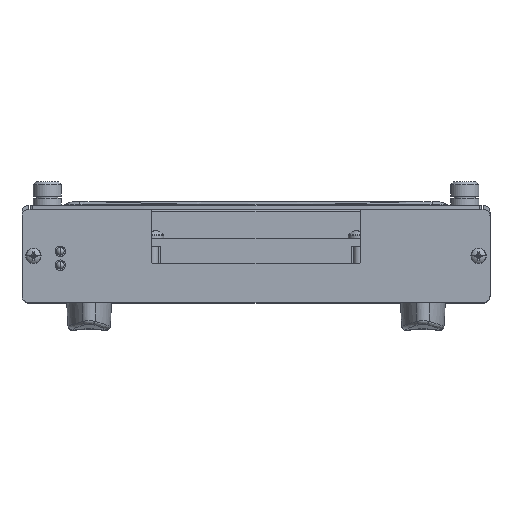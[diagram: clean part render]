
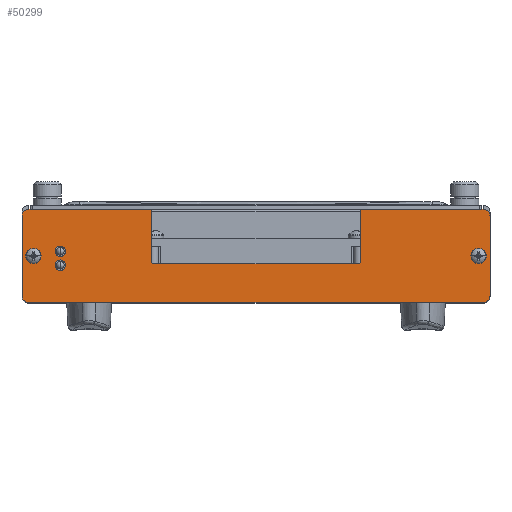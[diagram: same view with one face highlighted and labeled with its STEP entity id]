
A CAD part, top view. The second image highlights one B-rep face of the part: STEP entity #50299.
In plain terms, the highlighted planar face has unit normal (0, 0, 1).
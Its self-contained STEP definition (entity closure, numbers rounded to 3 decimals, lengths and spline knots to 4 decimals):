
#3085=CARTESIAN_POINT('',(1.53,1.31,7.58));
#3086=DIRECTION('',(0.,0.,1.));
#3087=DIRECTION('',(0.,1.,0.));
#3088=AXIS2_PLACEMENT_3D('',#3085,#3086,#3087);
#3181=CARTESIAN_POINT('',(-1.53,1.31,7.58));
#3182=DIRECTION('',(0.,0.,1.));
#3183=DIRECTION('',(1.,0.,0.));
#3184=AXIS2_PLACEMENT_3D('',#3181,#3182,#3183);
#3190=CARTESIAN_POINT('',(-1.47,0.585,7.58));
#3191=DIRECTION('',(0.,0.,-1.));
#3192=DIRECTION('',(0.,-1.,0.));
#3193=AXIS2_PLACEMENT_3D('',#3190,#3191,#3192);
#3213=CARTESIAN_POINT('',(1.47,0.585,7.58));
#3214=DIRECTION('',(0.,0.,-1.));
#3215=DIRECTION('',(1.,0.,0.));
#3216=AXIS2_PLACEMENT_3D('',#3213,#3214,#3215);
#3222=DIRECTION('',(-1.,0.,0.));
#3223=VECTOR('',#3222,0.0361);
#3224=CARTESIAN_POINT('',(3.265,1.34,7.58));
#3225=LINE('',#3224,#3223);
#3226=DIRECTION('',(0.,1.,0.));
#3227=VECTOR('',#3226,1.14);
#3228=CARTESIAN_POINT('',(3.365,0.1,7.58));
#3229=LINE('',#3228,#3227);
#3230=DIRECTION('',(1.,0.,0.));
#3231=VECTOR('',#3230,6.53);
#3232=CARTESIAN_POINT('',(-3.265,0.,7.58));
#3233=LINE('',#3232,#3231);
#3234=DIRECTION('',(0.,-1.,0.));
#3235=VECTOR('',#3234,1.14);
#3236=CARTESIAN_POINT('',(-3.365,1.24,7.58));
#3237=LINE('',#3236,#3235);
#3238=DIRECTION('',(-1.,0.,0.));
#3239=VECTOR('',#3238,0.0361);
#3240=CARTESIAN_POINT('',(-3.2289,1.34,7.58));
#3241=LINE('',#3240,#3239);
#3242=DIRECTION('',(-1.,0.,0.));
#3243=VECTOR('',#3242,0.6348);
#3244=CARTESIAN_POINT('',(-2.5941,1.34,7.58));
#3245=LINE('',#3244,#3243);
#3246=DIRECTION('',(-1.,0.,0.));
#3247=VECTOR('',#3246,1.0641);
#3248=CARTESIAN_POINT('',(-1.53,1.34,7.58));
#3249=LINE('',#3248,#3247);
#3250=DIRECTION('',(0.,-1.,0.));
#3251=VECTOR('',#3250,0.725);
#3252=CARTESIAN_POINT('',(-1.5,1.31,7.58));
#3253=LINE('',#3252,#3251);
#3254=DIRECTION('',(-1.,0.,0.));
#3255=VECTOR('',#3254,2.94);
#3256=CARTESIAN_POINT('',(1.47,0.555,7.58));
#3257=LINE('',#3256,#3255);
#3258=DIRECTION('',(0.,-1.,0.));
#3259=VECTOR('',#3258,0.725);
#3260=CARTESIAN_POINT('',(1.5,1.31,7.58));
#3261=LINE('',#3260,#3259);
#3262=DIRECTION('',(-1.,0.,0.));
#3263=VECTOR('',#3262,1.0641);
#3264=CARTESIAN_POINT('',(2.5941,1.34,7.58));
#3265=LINE('',#3264,#3263);
#3266=DIRECTION('',(-1.,0.,0.));
#3267=VECTOR('',#3266,0.6348);
#3268=CARTESIAN_POINT('',(3.2289,1.34,7.58));
#3269=LINE('',#3268,#3267);
#3270=CARTESIAN_POINT('',(-2.815,0.737,7.58));
#3271=DIRECTION('',(0.,0.,1.));
#3272=DIRECTION('',(-1.,0.,0.));
#3273=AXIS2_PLACEMENT_3D('',#3270,#3271,#3272);
#3275=CARTESIAN_POINT('',(-2.815,0.737,7.58));
#3276=DIRECTION('',(0.,0.,1.));
#3277=DIRECTION('',(1.,0.,0.));
#3278=AXIS2_PLACEMENT_3D('',#3275,#3276,#3277);
#3280=CARTESIAN_POINT('',(-2.815,0.537,7.58));
#3281=DIRECTION('',(0.,0.,1.));
#3282=DIRECTION('',(-1.,0.,0.));
#3283=AXIS2_PLACEMENT_3D('',#3280,#3281,#3282);
#3285=CARTESIAN_POINT('',(-2.815,0.537,7.58));
#3286=DIRECTION('',(0.,0.,1.));
#3287=DIRECTION('',(1.,0.,0.));
#3288=AXIS2_PLACEMENT_3D('',#3285,#3286,#3287);
#3290=CARTESIAN_POINT('',(3.2,0.67,7.58));
#3291=DIRECTION('',(0.,0.,1.));
#3292=DIRECTION('',(-1.,0.,0.));
#3293=AXIS2_PLACEMENT_3D('',#3290,#3291,#3292);
#3295=CARTESIAN_POINT('',(3.2,0.67,7.58));
#3296=DIRECTION('',(0.,0.,1.));
#3297=DIRECTION('',(1.,0.,0.));
#3298=AXIS2_PLACEMENT_3D('',#3295,#3296,#3297);
#3300=CARTESIAN_POINT('',(-3.2,0.67,7.58));
#3301=DIRECTION('',(0.,0.,1.));
#3302=DIRECTION('',(-1.,0.,0.));
#3303=AXIS2_PLACEMENT_3D('',#3300,#3301,#3302);
#3305=CARTESIAN_POINT('',(-3.2,0.67,7.58));
#3306=DIRECTION('',(0.,0.,1.));
#3307=DIRECTION('',(1.,0.,0.));
#3308=AXIS2_PLACEMENT_3D('',#3305,#3306,#3307);
#9623=CARTESIAN_POINT('',(-3.265,1.24,7.58));
#9624=DIRECTION('',(0.,0.,1.));
#9625=DIRECTION('',(0.,1.,0.));
#9626=AXIS2_PLACEMENT_3D('',#9623,#9624,#9625);
#9636=CARTESIAN_POINT('',(-3.265,0.1,7.58));
#9637=DIRECTION('',(0.,0.,1.));
#9638=DIRECTION('',(-1.,0.,0.));
#9639=AXIS2_PLACEMENT_3D('',#9636,#9637,#9638);
#10348=CARTESIAN_POINT('',(3.265,0.1,7.58));
#10349=DIRECTION('',(0.,0.,1.));
#10350=DIRECTION('',(0.,-1.,0.));
#10351=AXIS2_PLACEMENT_3D('',#10348,#10349,#10350);
#10366=CARTESIAN_POINT('',(3.265,1.24,7.58));
#10367=DIRECTION('',(0.,0.,1.));
#10368=DIRECTION('',(1.,0.,0.));
#10369=AXIS2_PLACEMENT_3D('',#10366,#10367,#10368);
#44313=CARTESIAN_POINT('',(3.365,1.24,7.58));
#44314=CARTESIAN_POINT('',(3.265,1.34,7.58));
#44315=VERTEX_POINT('',#44313);
#44316=VERTEX_POINT('',#44314);
#44317=CARTESIAN_POINT('',(3.265,0.,7.58));
#44318=CARTESIAN_POINT('',(3.365,0.1,7.58));
#44319=VERTEX_POINT('',#44317);
#44320=VERTEX_POINT('',#44318);
#44321=CARTESIAN_POINT('',(-3.365,0.1,7.58));
#44322=CARTESIAN_POINT('',(-3.265,0.,7.58));
#44323=VERTEX_POINT('',#44321);
#44324=VERTEX_POINT('',#44322);
#44325=CARTESIAN_POINT('',(-3.265,1.34,7.58));
#44326=CARTESIAN_POINT('',(-3.365,1.24,7.58));
#44327=VERTEX_POINT('',#44325);
#44328=VERTEX_POINT('',#44326);
#44329=CARTESIAN_POINT('',(-2.89,0.737,7.58));
#44330=CARTESIAN_POINT('',(-2.74,0.737,7.58));
#44331=VERTEX_POINT('',#44329);
#44332=VERTEX_POINT('',#44330);
#44333=CARTESIAN_POINT('',(-2.89,0.537,7.58));
#44334=CARTESIAN_POINT('',(-2.74,0.537,7.58));
#44335=VERTEX_POINT('',#44333);
#44336=VERTEX_POINT('',#44334);
#44345=CARTESIAN_POINT('',(-1.5,0.585,7.58));
#44347=VERTEX_POINT('',#44345);
#44349=CARTESIAN_POINT('',(1.5,0.585,7.58));
#44351=VERTEX_POINT('',#44349);
#44353=CARTESIAN_POINT('',(1.47,0.555,7.58));
#44354=CARTESIAN_POINT('',(-1.47,0.555,7.58));
#44355=VERTEX_POINT('',#44353);
#44356=VERTEX_POINT('',#44354);
#44358=CARTESIAN_POINT('',(-1.53,1.34,7.58));
#44360=VERTEX_POINT('',#44358);
#44363=CARTESIAN_POINT('',(-1.5,1.31,7.58));
#44364=VERTEX_POINT('',#44363);
#44366=CARTESIAN_POINT('',(1.5,1.31,7.58));
#44368=VERTEX_POINT('',#44366);
#44371=CARTESIAN_POINT('',(1.53,1.34,7.58));
#44372=VERTEX_POINT('',#44371);
#44643=CARTESIAN_POINT('',(3.0905,0.67,7.58));
#44644=CARTESIAN_POINT('',(3.3095,0.67,7.58));
#44645=VERTEX_POINT('',#44643);
#44646=VERTEX_POINT('',#44644);
#44773=CARTESIAN_POINT('',(-3.3095,0.67,7.58));
#44774=CARTESIAN_POINT('',(-3.0905,0.67,7.58));
#44775=VERTEX_POINT('',#44773);
#44776=VERTEX_POINT('',#44774);
#46928=CARTESIAN_POINT('',(-3.2289,1.34,7.58));
#46929=VERTEX_POINT('',#46928);
#46930=CARTESIAN_POINT('',(3.2289,1.34,7.58));
#46931=VERTEX_POINT('',#46930);
#46933=CARTESIAN_POINT('',(-2.5941,1.34,7.58));
#46935=VERTEX_POINT('',#46933);
#46936=CARTESIAN_POINT('',(2.5941,1.34,7.58));
#46938=VERTEX_POINT('',#46936);
#50238=CARTESIAN_POINT('',(0.,0.67,7.58));
#50239=DIRECTION('',(0.,0.,1.));
#50240=DIRECTION('',(1.,0.,0.));
#50241=AXIS2_PLACEMENT_3D('',#50238,#50239,#50240);
#50242=PLANE('',#50241);
#50244=ORIENTED_EDGE('',*,*,#50243,.F.);
#50246=ORIENTED_EDGE('',*,*,#50245,.F.);
#50248=ORIENTED_EDGE('',*,*,#50247,.F.);
#50250=ORIENTED_EDGE('',*,*,#50249,.F.);
#50252=ORIENTED_EDGE('',*,*,#50251,.F.);
#50254=ORIENTED_EDGE('',*,*,#50253,.F.);
#50256=ORIENTED_EDGE('',*,*,#50255,.F.);
#50258=ORIENTED_EDGE('',*,*,#50257,.F.);
#50259=ORIENTED_EDGE('',*,*,#47660,.F.);
#50261=ORIENTED_EDGE('',*,*,#50260,.F.);
#50262=ORIENTED_EDGE('',*,*,#50160,.F.);
#50263=ORIENTED_EDGE('',*,*,#50174,.F.);
#50264=ORIENTED_EDGE('',*,*,#50188,.T.);
#50265=ORIENTED_EDGE('',*,*,#50203,.F.);
#50266=ORIENTED_EDGE('',*,*,#50218,.F.);
#50267=ORIENTED_EDGE('',*,*,#50232,.F.);
#50268=ORIENTED_EDGE('',*,*,#50009,.F.);
#50269=ORIENTED_EDGE('',*,*,#50026,.F.);
#50270=ORIENTED_EDGE('',*,*,#50038,.F.);
#50272=ORIENTED_EDGE('',*,*,#50271,.F.);
#50273=EDGE_LOOP('',(#50244,#50246,#50248,#50250,#50252,#50254,#50256,#50258,
#50259,#50261,#50262,#50263,#50264,#50265,#50266,#50267,#50268,#50269,#50270,
#50272));
#50274=FACE_OUTER_BOUND('',#50273,.F.);
#50276=ORIENTED_EDGE('',*,*,#50275,.T.);
#50278=ORIENTED_EDGE('',*,*,#50277,.T.);
#50279=EDGE_LOOP('',(#50276,#50278));
#50280=FACE_BOUND('',#50279,.F.);
#50282=ORIENTED_EDGE('',*,*,#50281,.T.);
#50284=ORIENTED_EDGE('',*,*,#50283,.T.);
#50285=EDGE_LOOP('',(#50282,#50284));
#50286=FACE_BOUND('',#50285,.F.);
#50288=ORIENTED_EDGE('',*,*,#50287,.T.);
#50290=ORIENTED_EDGE('',*,*,#50289,.T.);
#50291=EDGE_LOOP('',(#50288,#50290));
#50292=FACE_BOUND('',#50291,.F.);
#50294=ORIENTED_EDGE('',*,*,#50293,.T.);
#50296=ORIENTED_EDGE('',*,*,#50295,.T.);
#50297=EDGE_LOOP('',(#50294,#50296));
#50298=FACE_BOUND('',#50297,.F.);
#50299=ADVANCED_FACE('',(#50274,#50280,#50286,#50292,#50298),#50242,.T.);
#3089=CIRCLE('',#3088,0.03);
#3185=CIRCLE('',#3184,0.03);
#3194=CIRCLE('',#3193,0.03);
#3217=CIRCLE('',#3216,0.03);
#3274=CIRCLE('',#3273,0.075);
#3279=CIRCLE('',#3278,0.075);
#3284=CIRCLE('',#3283,0.075);
#3289=CIRCLE('',#3288,0.075);
#3294=CIRCLE('',#3293,0.1095);
#3299=CIRCLE('',#3298,0.1095);
#3304=CIRCLE('',#3303,0.1095);
#3309=CIRCLE('',#3308,0.1095);
#9627=CIRCLE('',#9626,0.1);
#9640=CIRCLE('',#9639,0.1);
#10352=CIRCLE('',#10351,0.1);
#10370=CIRCLE('',#10369,0.1);
#47660=EDGE_CURVE('',#46929,#44327,#3241,.T.);
#50009=EDGE_CURVE('',#44368,#44351,#3261,.T.);
#50026=EDGE_CURVE('',#44372,#44368,#3089,.T.);
#50038=EDGE_CURVE('',#46938,#44372,#3265,.T.);
#50160=EDGE_CURVE('',#44360,#46935,#3249,.T.);
#50174=EDGE_CURVE('',#44364,#44360,#3185,.T.);
#50188=EDGE_CURVE('',#44364,#44347,#3253,.T.);
#50203=EDGE_CURVE('',#44356,#44347,#3194,.T.);
#50218=EDGE_CURVE('',#44355,#44356,#3257,.T.);
#50232=EDGE_CURVE('',#44351,#44355,#3217,.T.);
#50243=EDGE_CURVE('',#44316,#46931,#3225,.T.);
#50245=EDGE_CURVE('',#44315,#44316,#10370,.T.);
#50247=EDGE_CURVE('',#44320,#44315,#3229,.T.);
#50249=EDGE_CURVE('',#44319,#44320,#10352,.T.);
#50251=EDGE_CURVE('',#44324,#44319,#3233,.T.);
#50253=EDGE_CURVE('',#44323,#44324,#9640,.T.);
#50255=EDGE_CURVE('',#44328,#44323,#3237,.T.);
#50257=EDGE_CURVE('',#44327,#44328,#9627,.T.);
#50260=EDGE_CURVE('',#46935,#46929,#3245,.T.);
#50271=EDGE_CURVE('',#46931,#46938,#3269,.T.);
#50275=EDGE_CURVE('',#44331,#44332,#3274,.T.);
#50277=EDGE_CURVE('',#44332,#44331,#3279,.T.);
#50281=EDGE_CURVE('',#44335,#44336,#3284,.T.);
#50283=EDGE_CURVE('',#44336,#44335,#3289,.T.);
#50287=EDGE_CURVE('',#44645,#44646,#3294,.T.);
#50289=EDGE_CURVE('',#44646,#44645,#3299,.T.);
#50293=EDGE_CURVE('',#44775,#44776,#3304,.T.);
#50295=EDGE_CURVE('',#44776,#44775,#3309,.T.);
